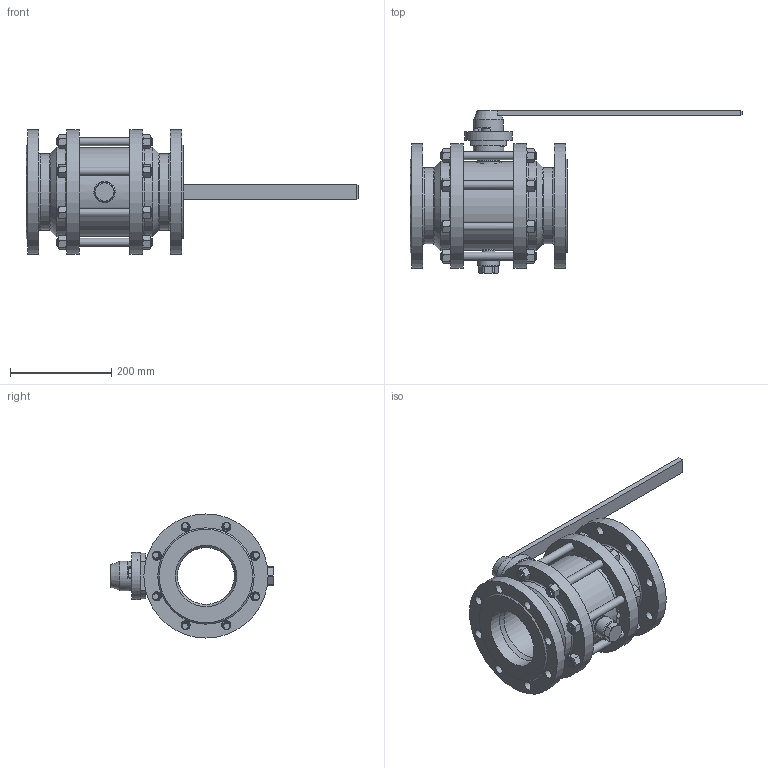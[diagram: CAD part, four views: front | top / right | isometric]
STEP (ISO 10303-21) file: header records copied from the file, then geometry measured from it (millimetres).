
FILE_DESCRIPTION(('STEP AP203'), '1');
FILE_NAME('ﾇﾀﾐﾄ 125.016.21-ﾕﾕ.ﾐ.stp', '2013-12-10T08:31:13', ('1'), ('1'), 'ASCON STEP Converter 1.3', 'Kompas 3D', '');
FILE_SCHEMA(('CONFIG_CONTROL_DESIGN','SUPPORT_RESOURCE_SCHEMA'));
Length unit declared in the file: millimetre
Products named in the file (1): 9
Bounding box: 655 x 321 x 245 mm (x, y, z)
Surface area: 783250.1 mm2 (no closed solid volume)
Topology: 0 solids, 2 shells, 585 faces, 1313 edges, 825 vertices
Faces by surface type: plane 313, cylinder 140, cone 126, torus 6
Full cylindrical faces by diameter (mm): 6 x4, 8 x11, 9 x5, 13 x5, 14 x4, 16 x24, 18 x32, 25 x1, 25.376 x1, 27 x1, 29 x1, 29.8 x1, 30 x1, 40 x2, 40.5 x1, 42 x1, 45 x1, 58 x1, 60 x1, 93 x1, 112 x2, 121 x2, 150 x2, 175 x1, 177 x2, 192 x1, 245 x4
Entity records: 24568 total; most frequent: CARTESIAN_POINT 11479, DIRECTION 2701, ORIENTED_EDGE 2610, EDGE_CURVE 1306, AXIS2_PLACEMENT_3D 1087, VERTEX_POINT 823, EDGE_LOOP 746, ADVANCED_FACE 585
